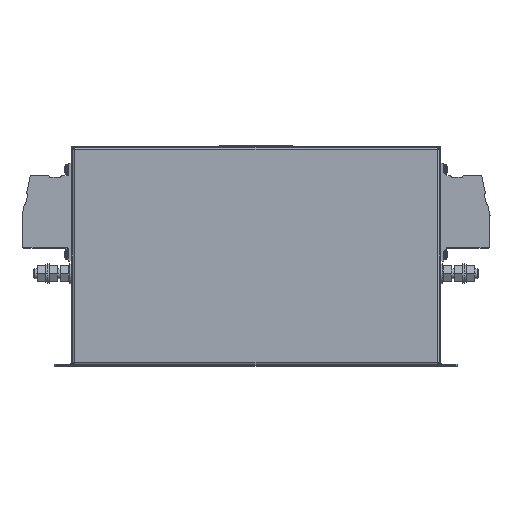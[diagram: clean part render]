
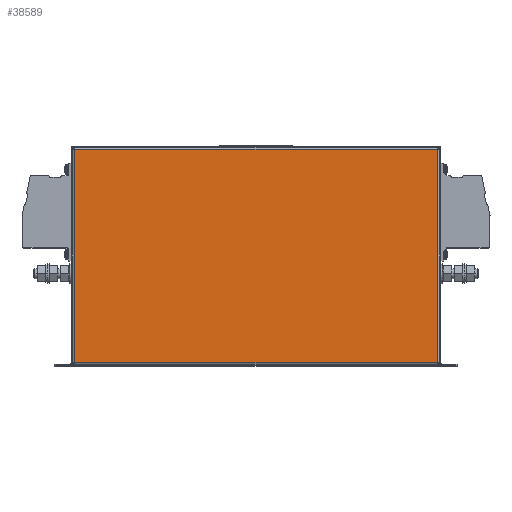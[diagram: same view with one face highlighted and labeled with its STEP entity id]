
A CAD part, top view. The second image highlights one B-rep face of the part: STEP entity #38589.
In plain terms, the highlighted planar face has unit normal (0, 0, 1).
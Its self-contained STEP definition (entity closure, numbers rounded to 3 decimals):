
#6243=DIRECTION('',(0.,1.,0.));
#6244=VECTOR('',#6243,219.);
#6245=CARTESIAN_POINT('',(186.5,-109.5,123.5));
#6246=LINE('',#6245,#6244);
#6649=DIRECTION('',(1.,0.,0.));
#6650=VECTOR('',#6649,373.);
#6651=CARTESIAN_POINT('',(-186.5,-109.5,123.5));
#6652=LINE('',#6651,#6650);
#6922=DIRECTION('',(-1.,0.,0.));
#6923=VECTOR('',#6922,373.);
#6924=CARTESIAN_POINT('',(186.5,109.5,123.5));
#6925=LINE('',#6924,#6923);
#6952=DIRECTION('',(0.,-1.,0.));
#6953=VECTOR('',#6952,219.);
#6954=CARTESIAN_POINT('',(-186.5,109.5,123.5));
#6955=LINE('',#6954,#6953);
#23272=CARTESIAN_POINT('',(186.5,-109.5,123.5));
#23274=VERTEX_POINT('',#23272);
#23277=CARTESIAN_POINT('',(186.5,109.5,123.5));
#23278=VERTEX_POINT('',#23277);
#23285=CARTESIAN_POINT('',(-186.5,109.5,123.5));
#23287=VERTEX_POINT('',#23285);
#23290=CARTESIAN_POINT('',(-186.5,-109.5,123.5));
#23291=VERTEX_POINT('',#23290);
#38577=CARTESIAN_POINT('',(0.,0.,123.5));
#38578=DIRECTION('',(0.,0.,1.));
#38579=DIRECTION('',(-1.,0.,0.));
#38580=AXIS2_PLACEMENT_3D('',#38577,#38578,#38579);
#38581=PLANE('',#38580);
#38582=ORIENTED_EDGE('',*,*,#38091,.F.);
#38584=ORIENTED_EDGE('',*,*,#38583,.F.);
#38585=ORIENTED_EDGE('',*,*,#38570,.F.);
#38586=ORIENTED_EDGE('',*,*,#37524,.F.);
#38587=EDGE_LOOP('',(#38582,#38584,#38585,#38586));
#38588=FACE_OUTER_BOUND('',#38587,.F.);
#37524=EDGE_CURVE('',#23274,#23278,#6246,.T.);
#38091=EDGE_CURVE('',#23291,#23274,#6652,.T.);
#38570=EDGE_CURVE('',#23278,#23287,#6925,.T.);
#38583=EDGE_CURVE('',#23287,#23291,#6955,.T.);
#38589=ADVANCED_FACE('',(#38588),#38581,.T.);
